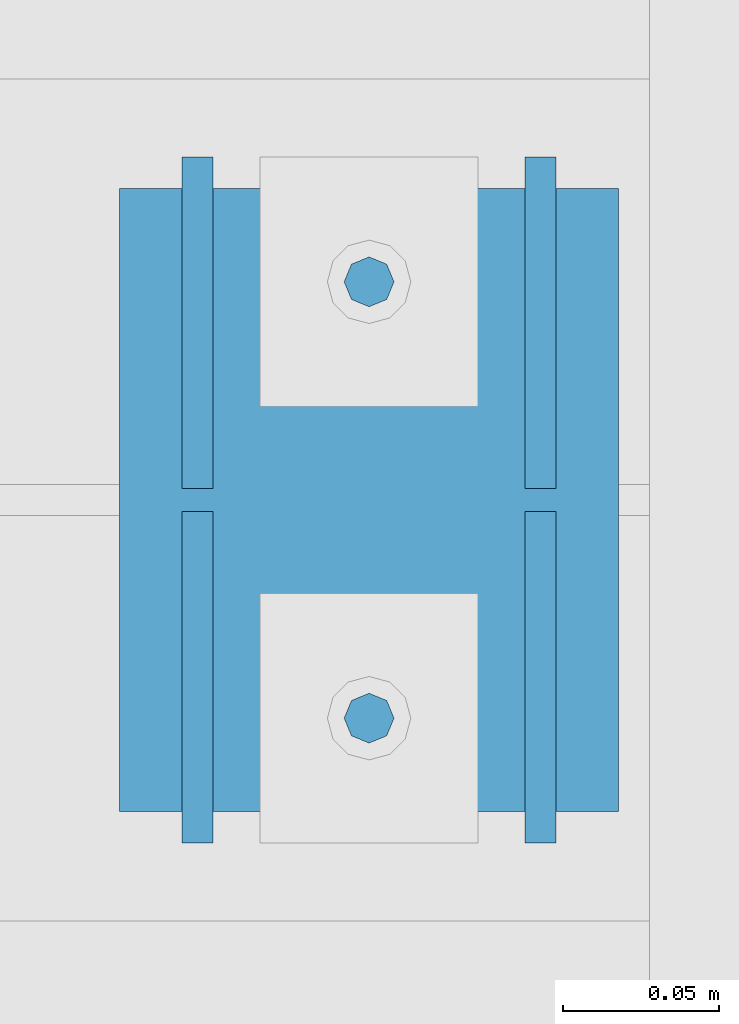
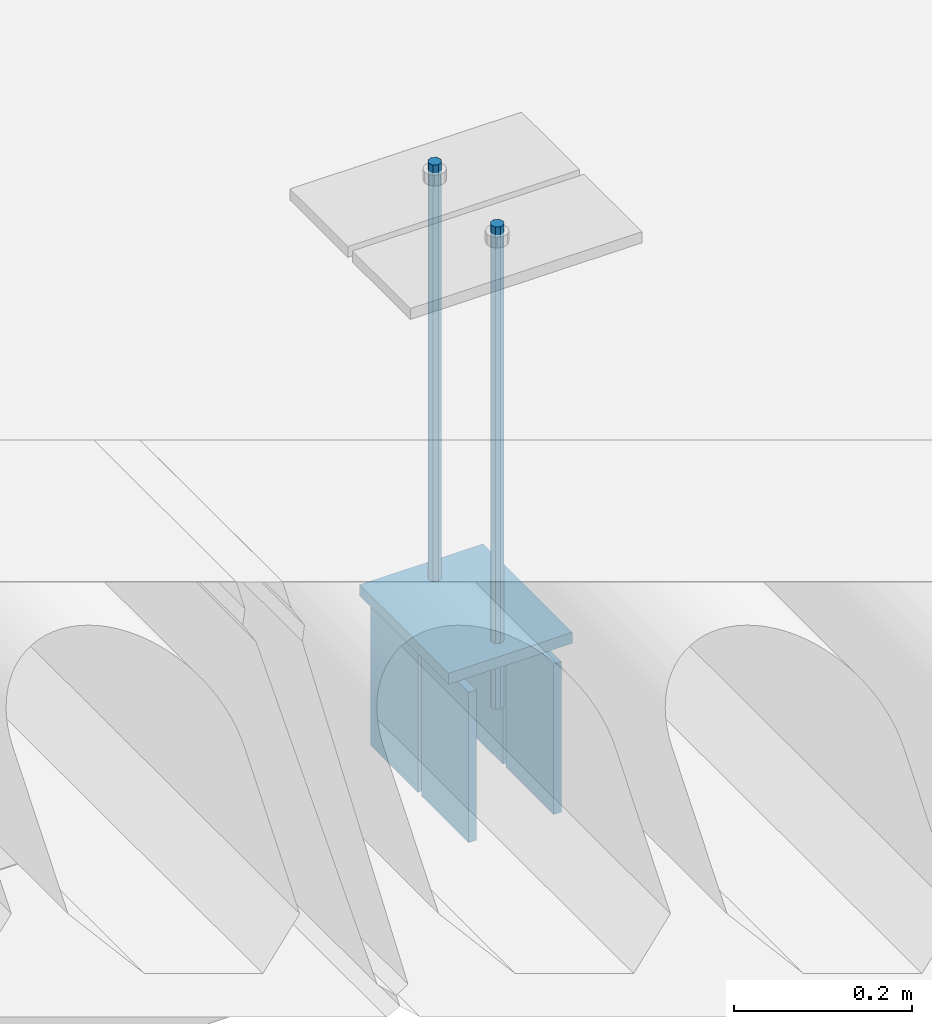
# One storey, part 26 of 98: 7 beams.
"""IFC2X3 building model written with IfcOpenShell, lengths in millimetres."""

from ifc_helpers import new_model, entity, si_unit, converted_unit, derived_unit, direction, frame, origin_with_axes, place, context, subcontext, project, spatial, faceted_brep, material, type_object, element, save


model = new_model("IFC2X3")

# Units and contexts
model_context = context("Model", 3, precision=0.01, world=frame((0.0, 4.29681676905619e-09, 0.0)), true_north=direction((4.01073788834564e-13, 1.0)))
plan_context = context("Plan", 3, precision=0.01, world=frame((0.0, 4.29681676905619e-09, 0.0)), true_north=direction((4.01073788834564e-13, 1.0)))
body_context = subcontext(model_context, "Body", "Model", "MODEL_VIEW")
ifc_project = project(units=[converted_unit("PLANEANGLEUNIT", "DEGREE", entity("IfcPositiveLengthMeasure", 0.0174532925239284), si_unit("PLANEANGLEUNIT", "RADIAN"), dimensions=[0, 0, 0, 0, 0, 0, 0]), si_unit("AREAUNIT", "SQUARE_METRE"), si_unit("LENGTHUNIT", "METRE", prefix="MILLI"), si_unit("MASSUNIT", "GRAM", prefix="KILO"), si_unit("POWERUNIT", "WATT"), si_unit("PRESSUREUNIT", "PASCAL"), si_unit("FORCEUNIT", "NEWTON", prefix="KILO"), si_unit("ELECTRICCURRENTUNIT", "AMPERE"), si_unit("THERMODYNAMICTEMPERATUREUNIT", "DEGREE_CELSIUS"), si_unit("TIMEUNIT", "SECOND"), si_unit("VOLUMEUNIT", "CUBIC_METRE"), derived_unit("LINEARVELOCITYUNIT", [(si_unit("LENGTHUNIT", "METRE"), 1), (si_unit("TIMEUNIT", "SECOND"), -1)]), derived_unit("VOLUMETRICFLOWRATEUNIT", [(si_unit("VOLUMEUNIT", "CUBIC_METRE"), 1), (si_unit("TIMEUNIT", "SECOND"), -1)]), derived_unit("THERMALTRANSMITTANCEUNIT", [(si_unit("POWERUNIT", "WATT"), 1), (si_unit("THERMODYNAMICTEMPERATUREUNIT", "KELVIN"), -1), (si_unit("AREAUNIT", "SQUARE_METRE"), -1)])], contexts=[model_context, plan_context])

# Site, building, storey
site_placement = place(None, frame((0.0, -4.29681676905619e-09, 0.0), z_axis=(0.0, 0.0, 1.0), x_axis=(1.0, 0.0, 0.0)))
site = spatial("IfcSite", under=ifc_project, at=site_placement, Name="Gardermoen", CompositionType="ELEMENT")
building_placement = place(site_placement, frame((0.0, 4.29681676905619e-09, 0.0), z_axis=(0.0, 0.0, 1.0), x_axis=(1.0, 0.0, 0.0)))
building = spatial("IfcBuilding", under=site, at=building_placement, Name="TS", CompositionType="ELEMENT")
storey_placement = place(building_placement, origin_with_axes())
storey = spatial("IfcBuildingStorey", under=building, at=storey_placement, Name="D", CompositionType="ELEMENT", Elevation=0.0)

# Beams
ifc_material = material(Name="STEEL/S355")
beam_type_1 = type_object("IfcBeamType", Name="D16", PredefinedType="NOTDEFINED")
for number, where, z_axis, x_axis in (
    (1, (517459.999766, 412740.0, 203310.0), (-0.999999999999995, -9.99999902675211e-08, 0.0), (0.0, 0.0, 1.0)),
    (2, (517459.999766, 412880.0, 203310.0), (-0.999999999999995, -9.99999902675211e-08, 0.0), (0.0, 0.0, 1.0)),
):
    element("IfcBeam", number, at=place(storey_placement, frame(where, z_axis=z_axis, x_axis=x_axis)), inside=storey, type_object=beam_type_1, material=ifc_material, Name="STÅLMONTASJE", ObjectType="D16", context=body_context, shape_type="Brep", body=[
        faceted_brep([(-5.82076609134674e-11, -8.00000000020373, -2.3283064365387e-10), (5.82076609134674e-11, -5.65685424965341, -5.65685424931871), (660.000000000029, -5.65685424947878, -5.65685426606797), (660.0, -8.0, -1.65891833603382e-08), (1.16415321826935e-10, -1.89174897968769e-10, -8.00000000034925), (660.000000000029, 0.0, -8.00000001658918), (0.0, 5.65685425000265, -5.65685424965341), (660.000000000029, 5.65685424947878, -5.65685426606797), (-5.82076609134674e-11, 8.00000000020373, 2.3283064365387e-10), (660.0, 8.0, -1.65891833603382e-08), (5.82076609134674e-11, 5.65685424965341, 5.65685424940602), (660.0, 5.65685424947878, 5.6568542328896), (-2.3283064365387e-10, 1.30967237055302e-10, 8.00000000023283), (659.999999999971, 0.0, 7.99999998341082), (1.16415321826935e-10, -5.65685425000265, 5.6568542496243), (660.0, -5.65685424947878, 5.6568542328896)], [[[0, 1, 2, 3]], [[1, 4, 5, 2]], [[4, 6, 7, 5]], [[6, 8, 9, 7]], [[8, 10, 11, 9]], [[10, 12, 13, 11]], [[12, 14, 15, 13]], [[14, 0, 3, 15]], [[5, 7, 9, 11, 13, 15, 3, 2]], [[14, 12, 10, 8, 6, 4, 1, 0]]]),
    ])
beam_type_2 = type_object("IfcBeamType", Name="PL106.25*10", PredefinedType="NOTDEFINED")
for number, where, z_axis, x_axis in (
    (3, (517405.000234, 412866.875, 203167.0), (0.0, -1.0, 0.0), (0.0, 0.0, 1.0)),
    (4, (517515.000234, 412866.875, 203167.0), (0.0, -1.0, 0.0), (0.0, 0.0, 1.0)),
    (5, (517405.000234, 412753.125, 203167.0), (0.0, 1.0, 0.0), (0.0, 0.0, 1.0)),
    (6, (517515.000234, 412753.125, 203167.0), (0.0, 1.0, 0.0), (0.0, 0.0, 1.0)),
):
    element("IfcBeam", number, at=place(storey_placement, frame(where, z_axis=z_axis, x_axis=x_axis)), inside=storey, type_object=beam_type_2, material=ifc_material, Name="STÅLBJELKE", ObjectType="PL106.25*10", context=body_context, shape_type="Brep", body=[
        faceted_brep([(0.0, 5.0, -53.125), (0.0, 5.0, 53.125), (206.0, 5.0, 53.125), (206.0, 5.0, -53.125), (0.0, -5.0, 53.125), (206.0, -5.0, 53.125), (0.0, -5.0, -53.125), (206.0, -5.0, -53.125)], [[[0, 1, 2, 3]], [[1, 4, 5, 2]], [[4, 6, 7, 5]], [[6, 0, 3, 7]], [[5, 7, 3, 2]], [[6, 4, 1, 0]]]),
    ])
beam_type_3 = type_object("IfcBeamType", Name="PL200*15", PredefinedType="NOTDEFINED")
beam_placement = place(storey_placement, frame((517379.999766, 412809.999991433, 203392.5), z_axis=(0.0, 1.0, 0.0), x_axis=(1.0, 0.0, 0.0)))
element("IfcBeam", 7, at=beam_placement, inside=storey, type_object=beam_type_3, material=ifc_material, Name="STÅLBJELKE", ObjectType="PL200*15", context=body_context, shape_type="Brep", body=[
    faceted_brep([(-2.3283064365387e-10, 7.50000000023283, -100.0), (-2.3283064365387e-10, 7.50000000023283, 100.0), (160.0, 7.5, 100.0), (160.0, 7.5, -100.0), (2.3283064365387e-10, -7.5, 100.0), (160.0, -7.5, 100.0), (2.3283064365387e-10, -7.5, -100.0), (160.0, -7.5, -100.0)], [[[0, 1, 2, 3]], [[1, 4, 5, 2]], [[4, 6, 7, 5]], [[6, 0, 3, 7]], [[5, 7, 3, 2]], [[6, 4, 1, 0]]]),
])

save(model, "model.ifc")
